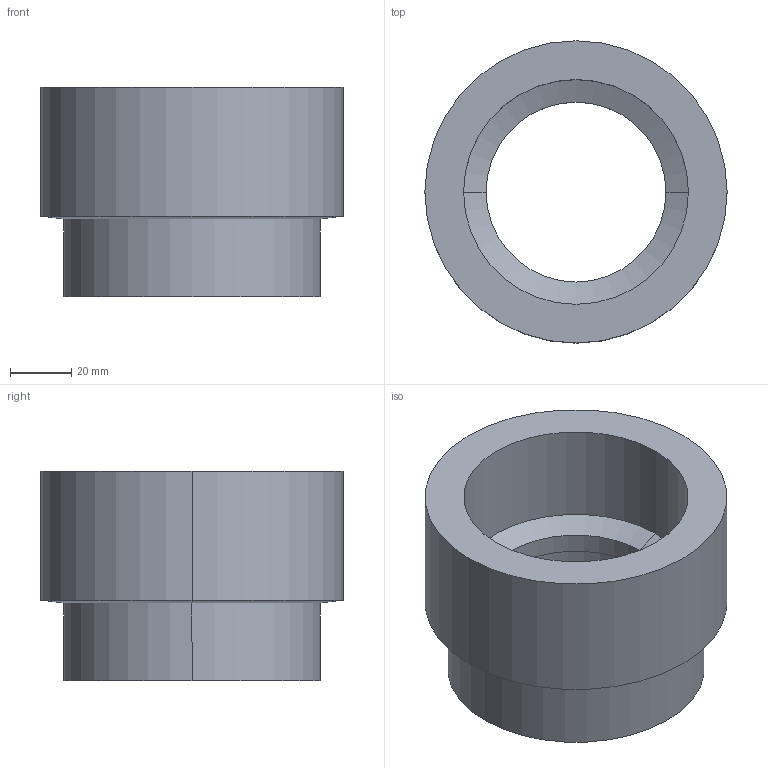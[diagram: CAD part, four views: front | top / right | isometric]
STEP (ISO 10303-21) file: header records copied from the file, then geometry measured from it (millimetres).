
FILE_DESCRIPTION (( 'STEP AP203' ), '1' );
FILE_NAME ('PMR19 FADO.STEP', '2022-08-23T10:52:41', ( '' ), ( '' ), 'SwSTEP 2.0', 'SolidWorks 2021', '' );
FILE_SCHEMA (( 'CONFIG_CONTROL_DESIGN' ));
Length unit declared in the file: millimetre
Products named in the file (1): PMR19 FADO
Bounding box: 98.8 x 98.8 x 68.55 mm (x, y, z)
Volume: 224216.5 mm3; surface area: 43733.6 mm2
Topology: 1 solids, 1 shells, 17 faces, 34 edges, 20 vertices
Faces by surface type: cylinder 10, cone 4, plane 3
Entity records: 525 total; most frequent: DIRECTION 90, CARTESIAN_POINT 72, ORIENTED_EDGE 68, AXIS2_PLACEMENT_3D 38, EDGE_CURVE 34, VERTEX_POINT 20, EDGE_LOOP 20, CIRCLE 20
